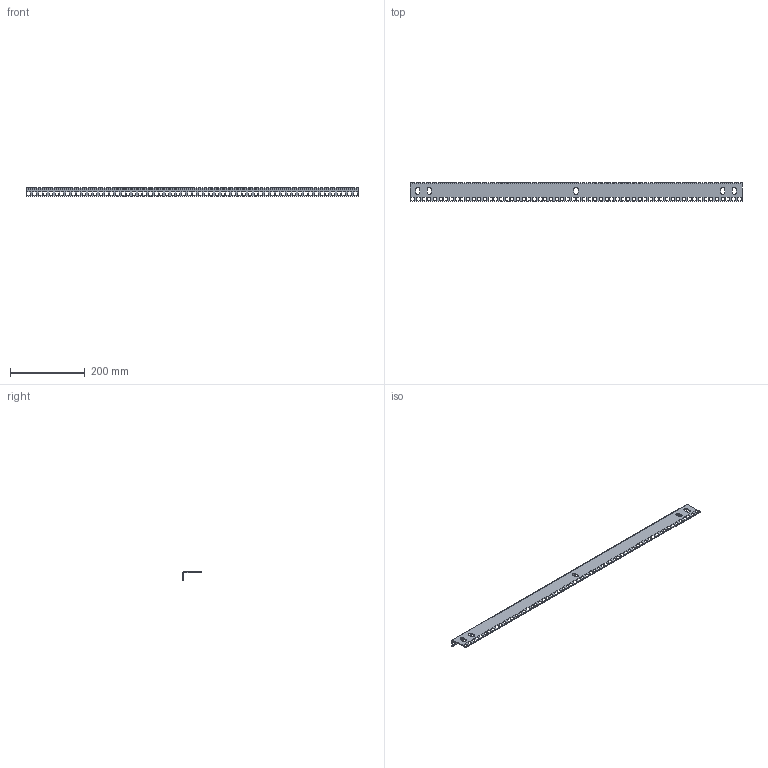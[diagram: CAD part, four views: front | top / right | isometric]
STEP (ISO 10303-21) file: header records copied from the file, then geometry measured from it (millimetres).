
FILE_DESCRIPTION( ( 'Unknown' ), '1' );
FILE_NAME( 'Q:/WEB DRAWINGS/STEP/CPR35SZPL.stp', 'Unknown', ( 'Unknown' ), ( 'Unknown' ), 'PSStep 14.0', 'Unknown', ' ' );
FILE_SCHEMA( ( 'AUTOMOTIVE_DESIGN { 1 0 10303 214 1 1 1 1 }' ) );
Length unit declared in the file: inch
Products named in the file (1): 1
Bounding box: 889.76 x 50.8 x 22.63 mm (x, y, z)
Volume: 121733.9 mm3; surface area: 117175.2 mm2
Topology: 1 solids, 1 shells, 510 faces, 1524 edges, 1016 vertices
Faces by surface type: plane 498, cylinder 12
Entity records: 21408 total; most frequent: CARTESIAN_POINT 3051, ORIENTED_EDGE 3048, DIRECTION 2570, EDGE_CURVE 1524, LINE 1500, VECTOR 1500, VERTEX_POINT 1016, EDGE_LOOP 760
